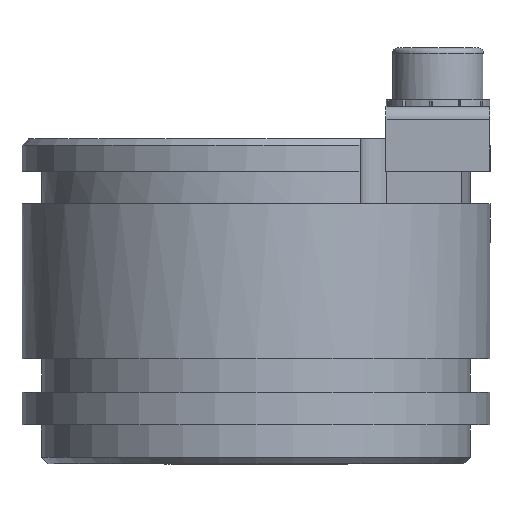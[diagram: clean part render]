
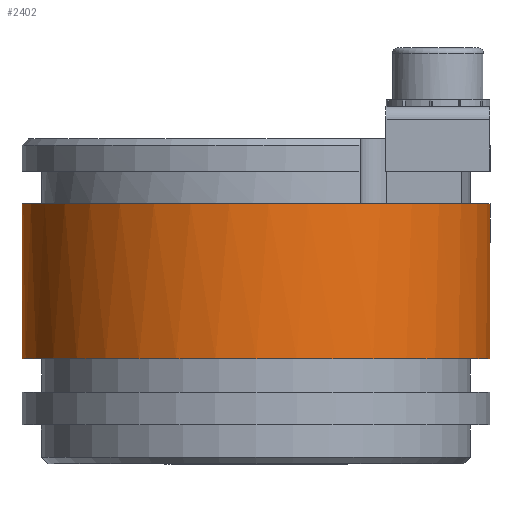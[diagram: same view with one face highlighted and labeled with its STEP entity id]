
A CAD part, left-side view. The second image highlights one B-rep face of the part: STEP entity #2402.
In plain terms, the highlighted cylindrical face has radius 18 mm (diameter 36 mm), a full revolution.
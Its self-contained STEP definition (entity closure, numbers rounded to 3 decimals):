
#2279=CARTESIAN_POINT('',(0.,0.,6.053));
#2280=DIRECTION('',(0.,0.,1.0));
#2281=DIRECTION('',(0.0,-1.0,0.0));
#2282=AXIS2_PLACEMENT_3D('',#2279,#2280,#2281);
#2283=CYLINDRICAL_SURFACE('',#2282,18.);
#2284=CARTESIAN_POINT('',(17.,5.916,13.653));
#2285=VERTEX_POINT('',#2284);
#2286=CARTESIAN_POINT('',(18.,0.,8.385));
#2287=VERTEX_POINT('',#2286);
#2288=CARTESIAN_POINT('',(17.,5.916,13.653));
#2289=CARTESIAN_POINT('',(17.036,5.812,12.978));
#2290=CARTESIAN_POINT('',(17.111,5.596,12.304));
#2291=CARTESIAN_POINT('',(17.207,5.282,11.692));
#2292=CARTESIAN_POINT('',(17.272,5.071,11.28));
#2293=CARTESIAN_POINT('',(17.346,4.817,10.897));
#2294=CARTESIAN_POINT('',(17.419,4.536,10.556));
#2295=CARTESIAN_POINT('',(17.461,4.376,10.362));
#2296=CARTESIAN_POINT('',(17.502,4.208,10.183));
#2297=CARTESIAN_POINT('',(17.544,4.025,10.009));
#2298=CARTESIAN_POINT('',(17.655,3.544,9.552));
#2299=CARTESIAN_POINT('',(17.766,2.964,9.158));
#2300=CARTESIAN_POINT('',(17.848,2.333,8.879));
#2301=CARTESIAN_POINT('',(17.927,1.729,8.612));
#2302=CARTESIAN_POINT('',(17.979,1.076,8.45));
#2303=CARTESIAN_POINT('',(17.995,0.436,8.402));
#2304=CARTESIAN_POINT('',(17.998,0.29,8.39));
#2305=CARTESIAN_POINT('',(18.,0.144,8.385));
#2306=CARTESIAN_POINT('',(18.,0.,8.385));
#2307=B_SPLINE_CURVE_WITH_KNOTS('',3,(#2288,#2289,#2290,#2291,#2292,#2293,#2294,#2295,#2296,#2297,#2298,#2299,#2300,#2301,#2302,#2303,#2304,#2305,#2306),.UNSPECIFIED.,.F.,.U.,(4,3,3,3,3,3,4),(0.098,0.294,0.426,0.502,0.699,0.888,0.931),.UNSPECIFIED.);
#2308=EDGE_CURVE('',#2285,#2287,#2307,.T.);
#2309=ORIENTED_EDGE('',*,*,#2308,.T.);
#2310=CARTESIAN_POINT('',(17.,-5.916,13.653));
#2311=VERTEX_POINT('',#2310);
#2312=CARTESIAN_POINT('',(18.,0.,8.385));
#2313=CARTESIAN_POINT('',(18.,-0.625,8.385));
#2314=CARTESIAN_POINT('',(17.965,-1.278,8.491));
#2315=CARTESIAN_POINT('',(17.9,-1.896,8.707));
#2316=CARTESIAN_POINT('',(17.843,-2.428,8.893));
#2317=CARTESIAN_POINT('',(17.765,-2.935,9.158));
#2318=CARTESIAN_POINT('',(17.678,-3.388,9.483));
#2319=CARTESIAN_POINT('',(17.626,-3.661,9.678));
#2320=CARTESIAN_POINT('',(17.571,-3.914,9.894));
#2321=CARTESIAN_POINT('',(17.517,-4.143,10.123));
#2322=CARTESIAN_POINT('',(17.474,-4.323,10.303));
#2323=CARTESIAN_POINT('',(17.432,-4.488,10.49));
#2324=CARTESIAN_POINT('',(17.39,-4.646,10.693));
#2325=CARTESIAN_POINT('',(17.281,-5.056,11.219));
#2326=CARTESIAN_POINT('',(17.174,-5.396,11.837));
#2327=CARTESIAN_POINT('',(17.098,-5.626,12.494));
#2328=CARTESIAN_POINT('',(17.054,-5.759,12.872));
#2329=CARTESIAN_POINT('',(17.021,-5.856,13.263));
#2330=CARTESIAN_POINT('',(17.,-5.916,13.653));
#2331=B_SPLINE_CURVE_WITH_KNOTS('',3,(#2312,#2313,#2314,#2315,#2316,#2317,#2318,#2319,#2320,#2321,#2322,#2323,#2324,#2325,#2326,#2327,#2328,#2329,#2330),.UNSPECIFIED.,.F.,.U.,(4,3,3,3,3,3,4),(0.931,1.119,1.28,1.377,1.454,1.651,1.765),.UNSPECIFIED.);
#2332=EDGE_CURVE('',#2287,#2311,#2331,.T.);
#2333=ORIENTED_EDGE('',*,*,#2332,.T.);
#2334=CARTESIAN_POINT('',(17.,-5.916,15.653));
#2335=VERTEX_POINT('',#2334);
#2336=CARTESIAN_POINT('',(17.,-5.916,13.653));
#2337=CARTESIAN_POINT('',(16.983,-5.965,13.943));
#2338=CARTESIAN_POINT('',(16.973,-5.992,14.234));
#2339=CARTESIAN_POINT('',(16.971,-5.999,14.519));
#2340=CARTESIAN_POINT('',(16.969,-6.004,14.757));
#2341=CARTESIAN_POINT('',(16.972,-5.995,14.995));
#2342=CARTESIAN_POINT('',(16.981,-5.971,15.238));
#2343=CARTESIAN_POINT('',(16.985,-5.958,15.376));
#2344=CARTESIAN_POINT('',(16.992,-5.94,15.514));
#2345=CARTESIAN_POINT('',(17.,-5.916,15.653));
#2346=B_SPLINE_CURVE_WITH_KNOTS('',3,(#2336,#2337,#2338,#2339,#2340,#2341,#2342,#2343,#2344,#2345),.UNSPECIFIED.,.F.,.U.,(4,3,3,4),(1.725,1.81,1.881,1.922),.UNSPECIFIED.);
#2347=EDGE_CURVE('',#2311,#2335,#2346,.T.);
#2348=ORIENTED_EDGE('',*,*,#2347,.T.);
#2349=CARTESIAN_POINT('',(17.034,-5.819,16.153));
#2350=VERTEX_POINT('',#2349);
#2351=CARTESIAN_POINT('',(17.,-5.916,15.653));
#2352=CARTESIAN_POINT('',(17.009,-5.89,15.82));
#2353=CARTESIAN_POINT('',(17.02,-5.858,15.987));
#2354=CARTESIAN_POINT('',(17.034,-5.819,16.153));
#2355=B_SPLINE_CURVE_WITH_KNOTS('',3,(#2351,#2352,#2353,#2354),.UNSPECIFIED.,.F.,.U.,(4,4),(1.961,2.009),.UNSPECIFIED.);
#2356=EDGE_CURVE('',#2335,#2350,#2355,.T.);
#2357=ORIENTED_EDGE('',*,*,#2356,.T.);
#2358=CARTESIAN_POINT('',(17.034,5.819,16.153));
#2359=VERTEX_POINT('',#2358);
#2360=CARTESIAN_POINT('',(0.,0.,16.153));
#2361=DIRECTION('',(0.0,0.0,-1.0));
#2362=DIRECTION('',(0.0,1.0,0.0));
#2363=AXIS2_PLACEMENT_3D('',#2360,#2361,#2362);
#2364=CIRCLE('',#2363,18.0);
#2365=EDGE_CURVE('',#2350,#2359,#2364,.T.);
#2366=ORIENTED_EDGE('',*,*,#2365,.T.);
#2367=CARTESIAN_POINT('',(17.,5.916,15.653));
#2368=VERTEX_POINT('',#2367);
#2369=CARTESIAN_POINT('',(17.034,5.819,16.153));
#2370=CARTESIAN_POINT('',(17.02,5.858,15.987));
#2371=CARTESIAN_POINT('',(17.009,5.89,15.82));
#2372=CARTESIAN_POINT('',(17.,5.916,15.653));
#2373=B_SPLINE_CURVE_WITH_KNOTS('',3,(#2369,#2370,#2371,#2372),.UNSPECIFIED.,.F.,.U.,(4,4),(-0.147,-0.098),.UNSPECIFIED.);
#2374=EDGE_CURVE('',#2359,#2368,#2373,.T.);
#2375=ORIENTED_EDGE('',*,*,#2374,.T.);
#2376=CARTESIAN_POINT('',(17.,5.916,15.653));
#2377=CARTESIAN_POINT('',(16.983,5.965,15.366));
#2378=CARTESIAN_POINT('',(16.974,5.992,15.078));
#2379=CARTESIAN_POINT('',(16.971,5.998,14.796));
#2380=CARTESIAN_POINT('',(16.969,6.004,14.542));
#2381=CARTESIAN_POINT('',(16.973,5.995,14.288));
#2382=CARTESIAN_POINT('',(16.982,5.967,14.029));
#2383=CARTESIAN_POINT('',(16.987,5.954,13.904));
#2384=CARTESIAN_POINT('',(16.993,5.937,13.778));
#2385=CARTESIAN_POINT('',(17.,5.916,13.653));
#2386=B_SPLINE_CURVE_WITH_KNOTS('',3,(#2376,#2377,#2378,#2379,#2380,#2381,#2382,#2383,#2384,#2385),.UNSPECIFIED.,.F.,.U.,(4,3,3,4),(-0.098,-0.014,0.062,0.098),.UNSPECIFIED.);
#2387=EDGE_CURVE('',#2368,#2285,#2386,.T.);
#2388=ORIENTED_EDGE('',*,*,#2387,.T.);
#2389=EDGE_LOOP('',(#2309,#2333,#2348,#2357,#2366,#2375,#2388));
#2390=FACE_OUTER_BOUND('',#2389,.T.);
#2391=CARTESIAN_POINT('',(0.,-18.0,4.253));
#2392=VERTEX_POINT('',#2391);
#2393=CARTESIAN_POINT('',(0.,0.,4.253));
#2394=DIRECTION('',(0.0,0.0,1.0));
#2395=DIRECTION('',(0.0,-1.0,0.0));
#2396=AXIS2_PLACEMENT_3D('',#2393,#2394,#2395);
#2397=CIRCLE('',#2396,18.);
#2398=EDGE_CURVE('',#2392,#2392,#2397,.T.);
#2399=ORIENTED_EDGE('',*,*,#2398,.T.);
#2400=EDGE_LOOP('',(#2399));
#2401=FACE_BOUND('',#2400,.T.);
#2402=ADVANCED_FACE('',(#2390,#2401),#2283,.T.);
